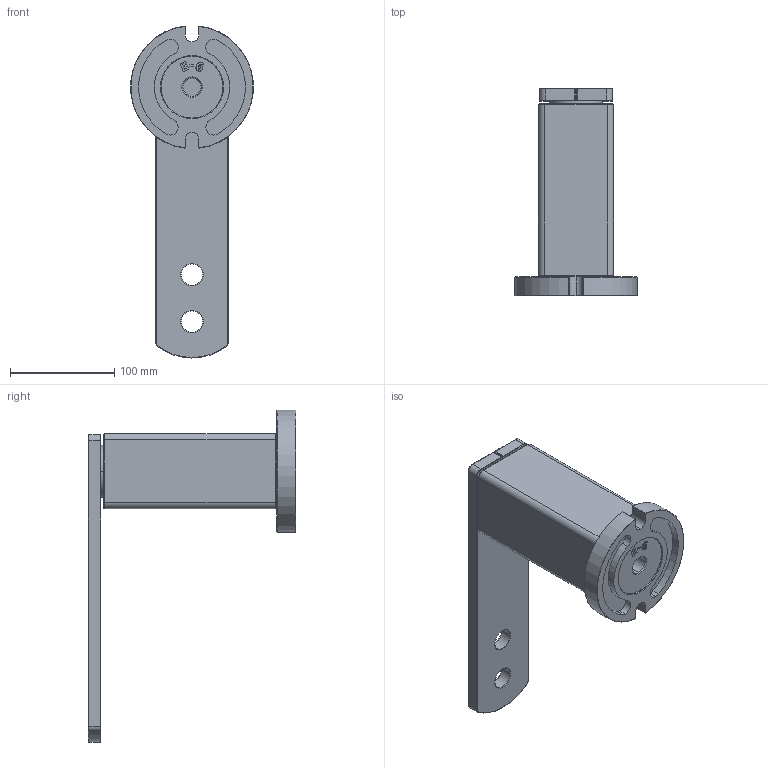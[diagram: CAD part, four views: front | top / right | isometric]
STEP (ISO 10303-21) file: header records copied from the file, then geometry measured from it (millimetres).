
FILE_DESCRIPTION (( 'STEP AP203' ), '1' );
FILE_NAME ('E6 cod. 94070006.STEP', '2017-08-25T09:28:49', ( '' ), ( '' ), 'SwSTEP 2.0', 'SolidWorks 2016', '' );
FILE_SCHEMA (( 'CONFIG_CONTROL_DESIGN' ));
Length unit declared in the file: millimetre
Products named in the file (3): Leva E6_chiuso; E6_009_step; E6 cod. 94070006
Assembly tree (2 placements, depth 2):
  E6 cod. 94070006
    E6_009_step
    Leva E6_chiuso
Bounding box: 117.57 x 199 x 318.62 mm (x, y, z)
Volume: 1014698.5 mm3; surface area: 200484.7 mm2
Topology: 2 solids, 2 shells, 181 faces, 434 edges, 264 vertices
Faces by surface type: plane 63, cylinder 55, torus 28, bspline 19, cone 12, sphere 4
Entity records: 6221 total; most frequent: CARTESIAN_POINT 1763, DIRECTION 876, ORIENTED_EDGE 860, EDGE_CURVE 430, AXIS2_PLACEMENT_3D 333, VERTEX_POINT 264, LINE 210, VECTOR 210
